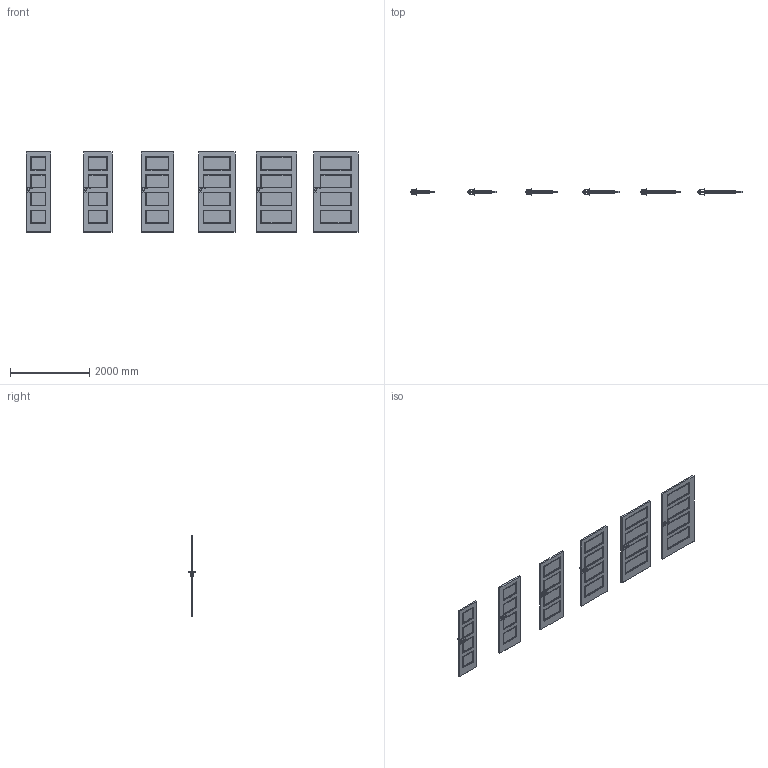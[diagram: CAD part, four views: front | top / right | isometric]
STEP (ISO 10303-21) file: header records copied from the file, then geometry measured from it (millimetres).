
FILE_DESCRIPTION(/* description */ (''),/* implementation_level */ '2;1');
FILE_NAME(/* name */ '050206_A_2-Skrzydło FIT model H_ polska norma _PN__ bezprzylgowe..stp',/* time_stamp */ '2025-01-07T09:39:38+01:00',/* author */ (''),/* organization */ (''),/* preprocessor_version */ 'ST-DEVELOPER v16',/* originating_system */ 'SIEMENS PLM Software NX 11.0',/* authorisation */ '');
FILE_SCHEMA (('AUTOMOTIVE_DESIGN { 1 0 10303 214 3 1 1 1 }'));
Products named in the file (1): bkni16DCB670pmeo
Bounding box: 8368 x 153.27 x 2017 mm (x, y, z)
Volume: 267192164.5 mm3; surface area: 26494586.3 mm2
Topology: 30 solids, 57 shells, 4140 faces, 10269 edges, 5910 vertices
Faces by surface type: plane 2435, bspline 1177, cylinder 360, sphere 168
Entity records: 187894 total; most frequent: CARTESIAN_POINT 98505, ORIENTED_EDGE 20202, DIRECTION 15117, EDGE_CURVE 10101, VERTEX_POINT 5910, LINE 5829, VECTOR 5829, AXIS2_PLACEMENT_3D 4644
